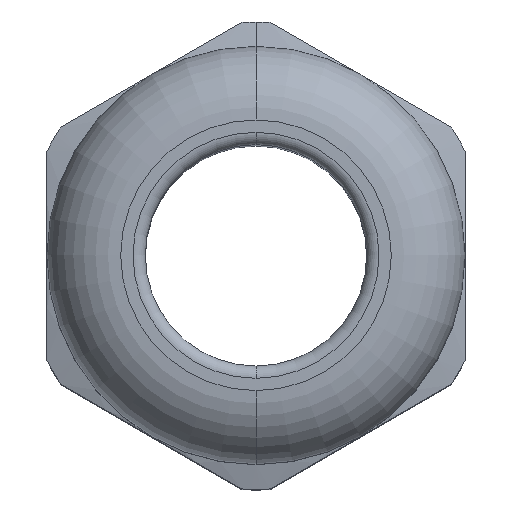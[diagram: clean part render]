
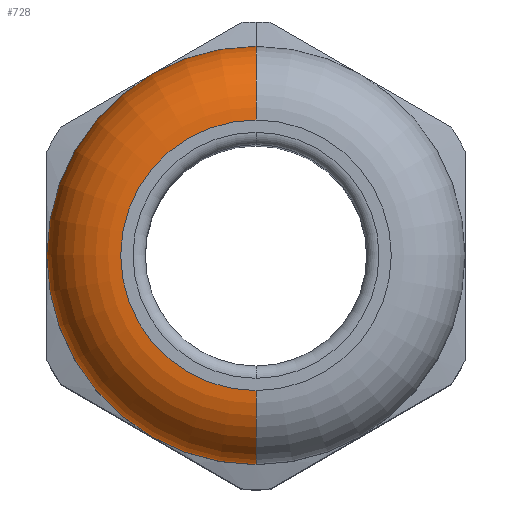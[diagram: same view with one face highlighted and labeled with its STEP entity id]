
A CAD part, top view. The second image highlights one B-rep face of the part: STEP entity #728.
In plain terms, the highlighted toroidal (fillet/blend) face has major radius 5.5 mm and minor radius 3 mm.
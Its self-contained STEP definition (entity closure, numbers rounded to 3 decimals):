
#130 = VERTEX_POINT ( 'NONE', #1426 ) ;
#132 = EDGE_CURVE ( 'NONE', #146, #130, #1425, .T. ) ;
#146 = VERTEX_POINT ( 'NONE', #1463 ) ;
#147 = VERTEX_POINT ( 'NONE', #1462 ) ;
#149 = EDGE_CURVE ( 'NONE', #147, #150, #1461, .T. ) ;
#150 = VERTEX_POINT ( 'NONE', #1456 ) ;
#708 = EDGE_CURVE ( 'NONE', #150, #130, #2383, .T. ) ;
#728 = ADVANCED_FACE ( 'NONE', ( #2590 ), #2585, .T. ) ;
#729 = EDGE_LOOP ( 'NONE', ( #730, #731, #733, #734 ) ) ;
#730 = ORIENTED_EDGE ( 'NONE', *, *, #149, .F. ) ;
#731 = ORIENTED_EDGE ( 'NONE', *, *, #732, .T. ) ;
#732 = EDGE_CURVE ( 'NONE', #147, #146, #2580, .T. ) ;
#733 = ORIENTED_EDGE ( 'NONE', *, *, #132, .T. ) ;
#734 = ORIENTED_EDGE ( 'NONE', *, *, #708, .F. ) ;
#1421 = DIRECTION ( 'NONE',  ( 0., 0., 1. ) ) ;
#1422 = DIRECTION ( 'NONE',  ( -1., 0., 0. ) ) ;
#1423 = CARTESIAN_POINT ( 'NONE',  ( 0., 5.5, 30. ) ) ;
#1424 = AXIS2_PLACEMENT_3D ( 'NONE', #1423, #1422, #1421 ) ;
#1425 = CIRCLE ( 'NONE', #1424, 3. ) ;
#1426 = CARTESIAN_POINT ( 'NONE',  ( 0., 8.5, 30. ) ) ;
#1456 = CARTESIAN_POINT ( 'NONE',  ( 0., -8.5, 30. ) ) ;
#1457 = DIRECTION ( 'NONE',  ( 0., 1., 0. ) ) ;
#1458 = DIRECTION ( 'NONE',  ( 1., 0., 0. ) ) ;
#1459 = CARTESIAN_POINT ( 'NONE',  ( 0., -5.5, 30. ) ) ;
#1460 = AXIS2_PLACEMENT_3D ( 'NONE', #1459, #1458, #1457 ) ;
#1461 = CIRCLE ( 'NONE', #1460, 3. ) ;
#1462 = CARTESIAN_POINT ( 'NONE',  ( 0., -5.5, 33. ) ) ;
#1463 = CARTESIAN_POINT ( 'NONE',  ( 0., 5.5, 33. ) ) ;
#1578 = AXIS2_PLACEMENT_3D ( 'NONE', #1579, #1914, #1970 ) ;
#1579 = CARTESIAN_POINT ( 'NONE',  ( 0., 0., 30. ) ) ;
#1914 = DIRECTION ( 'NONE',  ( 0., 0., -1. ) ) ;
#1970 = DIRECTION ( 'NONE',  ( 0., 1., 0. ) ) ;
#2383 = CIRCLE ( 'NONE', #1578, 8.5 ) ;
#2576 = DIRECTION ( 'NONE',  ( 0., 1., 0. ) ) ;
#2577 = DIRECTION ( 'NONE',  ( 0., 0., -1. ) ) ;
#2578 = CARTESIAN_POINT ( 'NONE',  ( 0., 0., 33. ) ) ;
#2579 = AXIS2_PLACEMENT_3D ( 'NONE', #2578, #2577, #2576 ) ;
#2580 = CIRCLE ( 'NONE', #2579, 5.5 ) ;
#2581 = DIRECTION ( 'NONE',  ( 0., 1., 0. ) ) ;
#2582 = DIRECTION ( 'NONE',  ( 0., 0., -1. ) ) ;
#2583 = CARTESIAN_POINT ( 'NONE',  ( 0., 0., 30. ) ) ;
#2584 = AXIS2_PLACEMENT_3D ( 'NONE', #2583, #2582, #2581 ) ;
#2585 = TOROIDAL_SURFACE ( 'NONE', #2584, 5.5, 3. ) ;
#2590 = FACE_OUTER_BOUND ( 'NONE', #729, .T. ) ;
